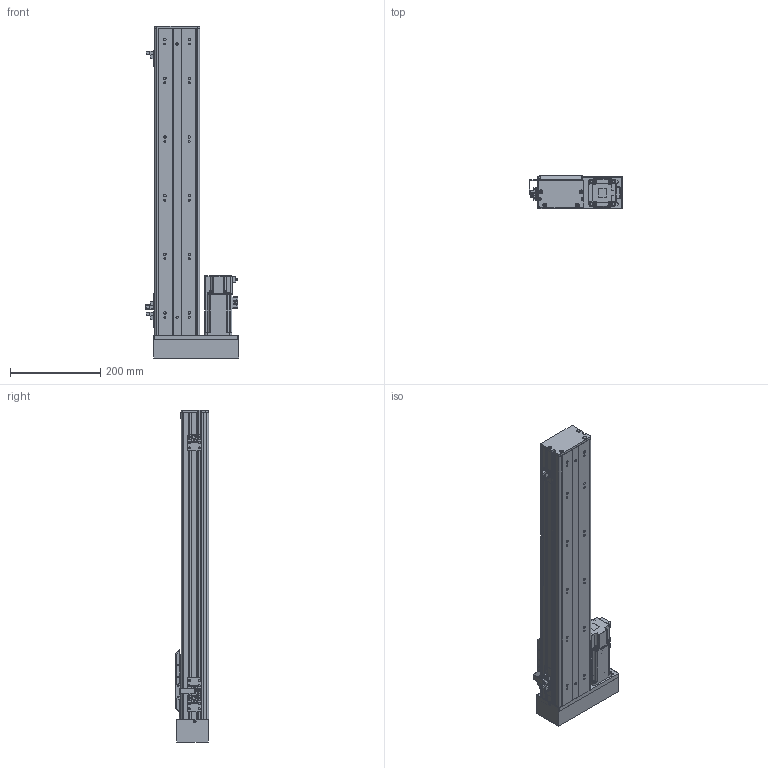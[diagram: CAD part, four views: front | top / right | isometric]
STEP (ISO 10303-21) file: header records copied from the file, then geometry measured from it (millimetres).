
FILE_DESCRIPTION (( 'STEP AP203' ), '1' );
FILE_NAME ('BOSW100-500-1610-1P-LM-M400W-O-S3（方程式2016）.step', '2020-10-10T06:55:41', ( '' ), ( '' ), 'SwSTEP 2.0', 'SolidWorks 2016', '' );
FILE_SCHEMA (( 'CONFIG_CONTROL_DESIGN' ));
Length unit declared in the file: millimetre
Products named in the file (14): 新结构AIMSW-100-1P-宽&高轨共用-滑动座上组件; BOSW-100-綴裔啣; BOSW&TW-100-1P-賑雄釱欶; BOSW-100-1P-DM-500諦誧芞; 放大器内置U型微型光电传感器PM-L65; BOSW100-500-1610-1P-LM-M400W-O-S3（方程式2016）; AIMS(W)-100-LM&RM-肮祭謫欶; BOSW&TW-100-詩湍揤沭(陔賦凳); BOSW-100-1P-DM-宽轨-钢带-500客户图纸; BOSW&TW-100-俋离覜茼え; boS-100-LM&RM-三菱M400W马达板-宽轨; S400W(SMA-L040); 俋境嫖覜嘐隅啣; BOSW-100-1P-DM-宽轨-侧板-500客户图纸
Assembly tree (19 placements, depth 2):
  BOSW100-500-1610-1P-LM-M400W-O-S3（方程式2016）
    BOSW-100-1P-DM-500諦誧芞
    BOSW-100-綴裔啣
    新结构AIMSW-100-1P-宽&高轨共用-滑动座上组件
    S400W(SMA-L040)
    BOSW&TW-100-詩湍揤沭(陔賦凳)  x2
    BOSW&TW-100-1P-賑雄釱欶
    BOSW&TW-100-俋离覜茼え
    俋境嫖覜嘐隅啣  x3
    放大器内置U型微型光电传感器PM-L65  x3
    BOSW-100-1P-DM-宽轨-侧板-500客户图纸  x2
    BOSW-100-1P-DM-宽轨-钢带-500客户图纸
    AIMS(W)-100-LM&RM-肮祭謫欶
    boS-100-LM&RM-三菱M400W马达板-宽轨
Bounding box: 207.9 x 75 x 736 mm (x, y, z)
Volume: 1727497.6 mm3; surface area: 827037 mm2
Topology: 19 solids, 20 shells, 2521 faces, 6651 edges, 4243 vertices
Faces by surface type: plane 1241, cylinder 794, bspline 271, cone 167, torus 36, sphere 12
Entity records: 69100 total; most frequent: CARTESIAN_POINT 20740, ORIENTED_EDGE 9842, DIRECTION 9525, EDGE_CURVE 4921, AXIS2_PLACEMENT_3D 3373, VERTEX_POINT 3145, VECTOR 2779, LINE 2779
